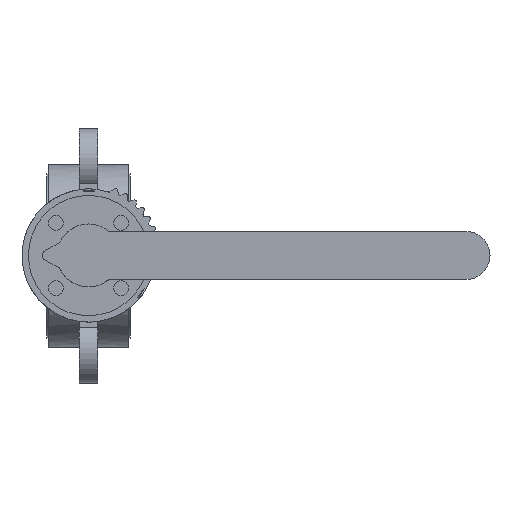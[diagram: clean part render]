
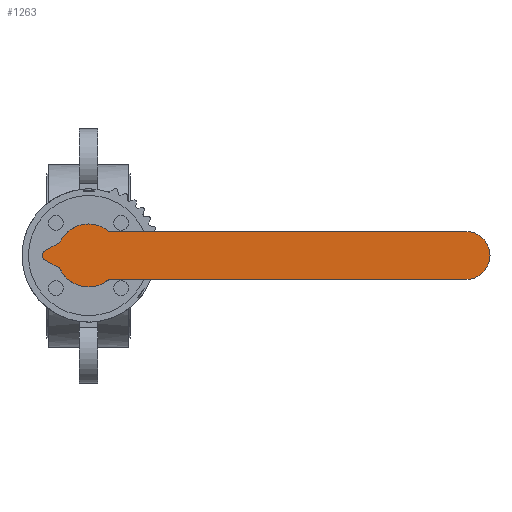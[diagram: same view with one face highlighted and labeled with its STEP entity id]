
A CAD part, top view. The second image highlights one B-rep face of the part: STEP entity #1263.
In plain terms, the highlighted planar face has unit normal (0, 0, 1).
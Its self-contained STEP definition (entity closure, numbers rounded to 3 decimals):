
#1263=ADVANCED_FACE('',(#2756),#2758,.T.);
#2756=FACE_BOUND('',#2757,.T.);
#2757=EDGE_LOOP('',(#3829,#3830,#3831,#3832,#3833,#3834,#3835,#3836,#3837,#3838,
#3839));
#2758=PLANE('',#2759);
#2759=AXIS2_PLACEMENT_3D('',#2760,#2761,#2762);
#2760=CARTESIAN_POINT('',(-1.545,-4.755,173.));
#2761=DIRECTION('',(0.,0.,1.));
#2762=DIRECTION('',(0.951,-0.309,0.));
#3829=ORIENTED_EDGE('',*,*,#4457,.T.);
#3830=ORIENTED_EDGE('',*,*,#4436,.T.);
#3831=ORIENTED_EDGE('',*,*,#4435,.T.);
#3832=ORIENTED_EDGE('',*,*,#4458,.T.);
#3833=ORIENTED_EDGE('',*,*,#4459,.T.);
#3834=ORIENTED_EDGE('',*,*,#4460,.T.);
#3835=ORIENTED_EDGE('',*,*,#4461,.T.);
#3836=ORIENTED_EDGE('',*,*,#4462,.T.);
#3837=ORIENTED_EDGE('',*,*,#4431,.T.);
#3838=ORIENTED_EDGE('',*,*,#4443,.T.);
#3839=ORIENTED_EDGE('',*,*,#4463,.T.);
#4431=EDGE_CURVE('',#5147,#5145,#5148,.T.);
#4435=EDGE_CURVE('',#5155,#5153,#5156,.T.);
#4436=EDGE_CURVE('',#5157,#5155,#5158,.T.);
#4443=EDGE_CURVE('',#5145,#5169,#5170,.T.);
#4457=EDGE_CURVE('',#5196,#5157,#5197,.T.);
#4458=EDGE_CURVE('',#5153,#5198,#5199,.T.);
#4459=EDGE_CURVE('',#5198,#5200,#5201,.T.);
#4460=EDGE_CURVE('',#5200,#5202,#5203,.T.);
#4461=EDGE_CURVE('',#5202,#5204,#5205,.T.);
#4462=EDGE_CURVE('',#5204,#5147,#5206,.T.);
#4463=EDGE_CURVE('',#5169,#5196,#5207,.T.);
#5145=VERTEX_POINT('',#7687);
#5147=VERTEX_POINT('',#7691);
#5148=CIRCLE('',#7692,17.);
#5153=VERTEX_POINT('',#7705);
#5155=VERTEX_POINT('',#7709);
#5156=CIRCLE('',#7710,17.);
#5157=VERTEX_POINT('',#7714);
#5158=CIRCLE('',#7715,17.);
#5169=VERTEX_POINT('',#7744);
#5170=LINE('',#7745,#7746);
#5196=VERTEX_POINT('',#7799);
#5197=LINE('',#7800,#7801);
#5198=VERTEX_POINT('',#7803);
#5199=CIRCLE('',#7804,3.);
#5200=VERTEX_POINT('',#7808);
#5201=LINE('',#7809,#7810);
#5202=VERTEX_POINT('',#7812);
#5203=CIRCLE('',#7813,3.);
#5204=VERTEX_POINT('',#7817);
#5205=LINE('',#7818,#7819);
#5206=CIRCLE('',#7821,3.);
#5207=CIRCLE('',#7825,13.);
#7687=CARTESIAN_POINT('',(10.954,-13.,173.));
#7691=CARTESIAN_POINT('',(-15.113,-7.785,173.));
#7692=AXIS2_PLACEMENT_3D('',#7693,#7694,#7695);
#7693=CARTESIAN_POINT('',(0.,0.,173.));
#7694=DIRECTION('',(0.,0.,1.));
#7695=DIRECTION('',(-0.889,-0.458,0.));
#7705=CARTESIAN_POINT('',(-15.113,7.785,173.));
#7709=CARTESIAN_POINT('',(2.659,16.791,173.));
#7710=AXIS2_PLACEMENT_3D('',#7711,#7712,#7713);
#7711=CARTESIAN_POINT('',(0.,0.,173.));
#7712=DIRECTION('',(0.,0.,1.));
#7713=DIRECTION('',(0.156,0.988,0.));
#7714=CARTESIAN_POINT('',(10.954,13.,173.));
#7715=AXIS2_PLACEMENT_3D('',#7716,#7717,#7718);
#7716=CARTESIAN_POINT('',(0.,0.,173.));
#7717=DIRECTION('',(0.,0.,1.));
#7718=DIRECTION('',(0.644,0.765,0.));
#7744=CARTESIAN_POINT('',(204.,-13.,173.));
#7745=CARTESIAN_POINT('',(10.954,-13.,173.));
#7746=VECTOR('',#7747,1.);
#7747=DIRECTION('',(1.,0.,0.));
#7799=CARTESIAN_POINT('',(204.,13.,173.));
#7800=CARTESIAN_POINT('',(204.,13.,173.));
#7801=VECTOR('',#7802,1.);
#7802=DIRECTION('',(-1.,0.,0.));
#7803=CARTESIAN_POINT('',(-16.317,6.539,173.));
#7804=AXIS2_PLACEMENT_3D('',#7805,#7806,#7807);
#7805=CARTESIAN_POINT('',(-17.78,9.159,173.));
#7806=DIRECTION('',(0.,0.,-1.));
#7807=DIRECTION('',(0.889,-0.458,0.));
#7808=CARTESIAN_POINT('',(-23.338,2.619,173.));
#7809=CARTESIAN_POINT('',(-16.317,6.539,173.));
#7810=VECTOR('',#7811,1.);
#7811=DIRECTION('',(-0.873,-0.487,0.));
#7812=CARTESIAN_POINT('',(-23.338,-2.619,173.));
#7813=AXIS2_PLACEMENT_3D('',#7814,#7815,#7816);
#7814=CARTESIAN_POINT('',(-21.876,0.,173.));
#7815=DIRECTION('',(0.,0.,1.));
#7816=DIRECTION('',(-0.487,0.873,0.));
#7817=CARTESIAN_POINT('',(-16.317,-6.539,173.));
#7818=CARTESIAN_POINT('',(-23.338,-2.619,173.));
#7819=VECTOR('',#7820,1.);
#7820=DIRECTION('',(0.873,-0.487,0.));
#7821=AXIS2_PLACEMENT_3D('',#7822,#7823,#7824);
#7822=CARTESIAN_POINT('',(-17.78,-9.159,173.));
#7823=DIRECTION('',(0.,0.,-1.));
#7824=DIRECTION('',(0.487,0.873,0.));
#7825=AXIS2_PLACEMENT_3D('',#7826,#7827,#7828);
#7826=CARTESIAN_POINT('',(204.,0.,173.));
#7827=DIRECTION('',(0.,0.,1.));
#7828=DIRECTION('',(0.,-1.,0.));
